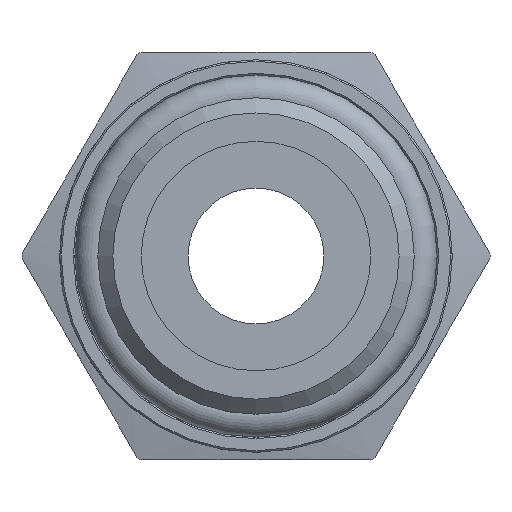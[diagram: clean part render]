
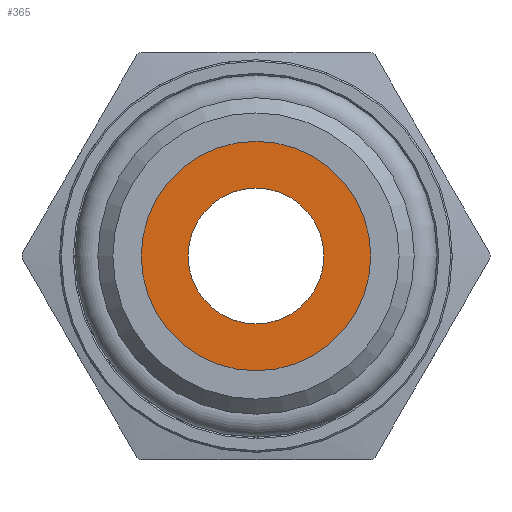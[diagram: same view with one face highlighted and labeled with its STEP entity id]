
A CAD part, left-side view. The second image highlights one B-rep face of the part: STEP entity #365.
In plain terms, the highlighted planar face has unit normal (-1, 0, 0).
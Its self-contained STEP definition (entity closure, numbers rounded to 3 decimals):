
#152=PLANE('',#1264);
#365=ADVANCED_FACE('',(#461,#462),#152,.F.);
#461=FACE_BOUND('',#572,.T.);
#462=FACE_BOUND('',#573,.T.);
#572=EDGE_LOOP('',(#828));
#573=EDGE_LOOP('',(#829));
#828=ORIENTED_EDGE('',*,*,#1058,.F.);
#829=ORIENTED_EDGE('',*,*,#992,.F.);
#881=VERTEX_POINT('',#1751);
#929=VERTEX_POINT('',#1989);
#992=EDGE_CURVE('',#881,#881,#1096,.T.);
#1058=EDGE_CURVE('',#929,#929,#1126,.T.);
#1096=CIRCLE('',#1191,7.6);
#1126=CIRCLE('',#1263,4.5);
#1191=AXIS2_PLACEMENT_3D('',#1750,#1407,#1408);
#1263=AXIS2_PLACEMENT_3D('',#1988,#1569,#1570);
#1264=AXIS2_PLACEMENT_3D('',#1990,#1571,#1572);
#1407=DIRECTION('',(1.,0.,0.));
#1408=DIRECTION('',(0.,1.,0.));
#1569=DIRECTION('',(-1.,0.,0.));
#1570=DIRECTION('',(0.,0.,-1.));
#1571=DIRECTION('',(1.,0.,0.));
#1572=DIRECTION('',(0.,0.,1.));
#1750=CARTESIAN_POINT('',(33.,0.,0.));
#1751=CARTESIAN_POINT('',(33.,7.6,0.));
#1988=CARTESIAN_POINT('',(33.,0.,0.));
#1989=CARTESIAN_POINT('',(33.,0.,-4.5));
#1990=CARTESIAN_POINT('',(33.,0.,9.));
